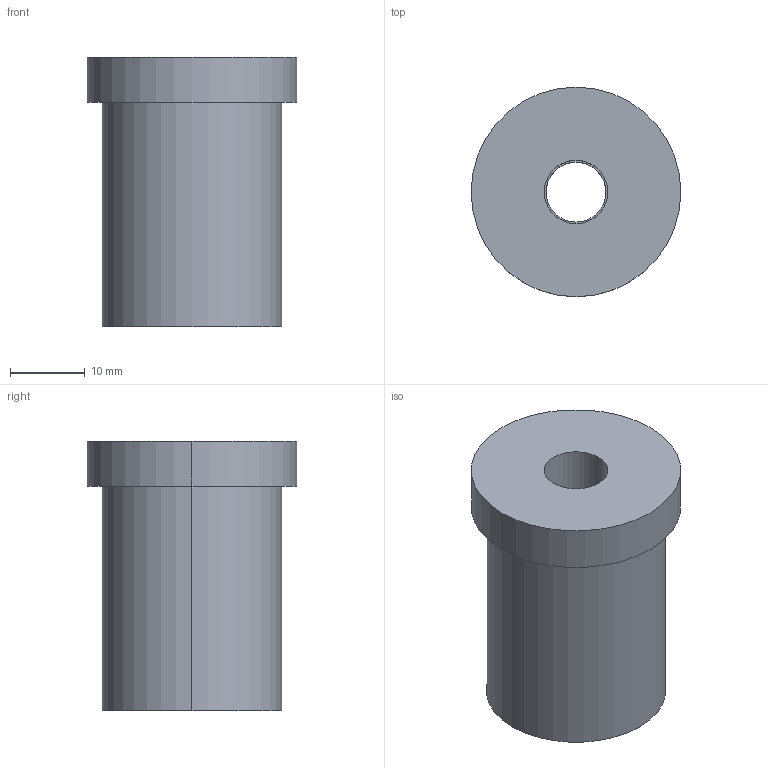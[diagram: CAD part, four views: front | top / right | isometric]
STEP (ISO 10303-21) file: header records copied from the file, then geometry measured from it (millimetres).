
FILE_DESCRIPTION (( 'STEP AP214' ), '1' );
FILE_NAME ('BR53-24x36.STEP', '2020-01-30T11:33:07', ( 'August' ), ( '' ), 'SwSTEP 2.0', 'SolidWorks 2018', '' );
FILE_SCHEMA (( 'AUTOMOTIVE_DESIGN' ));
Length unit declared in the file: millimetre
Products named in the file (1): BR53-24x36
Bounding box: 28 x 28 x 36 mm (x, y, z)
Volume: 15313.9 mm3; surface area: 4878.5 mm2
Topology: 1 solids, 1 shells, 17 faces, 34 edges, 22 vertices
Faces by surface type: cylinder 10, plane 5, cone 2
Entity records: 492 total; most frequent: DIRECTION 92, CARTESIAN_POINT 74, ORIENTED_EDGE 68, AXIS2_PLACEMENT_3D 40, EDGE_CURVE 34, EDGE_LOOP 22, VERTEX_POINT 22, CIRCLE 22
